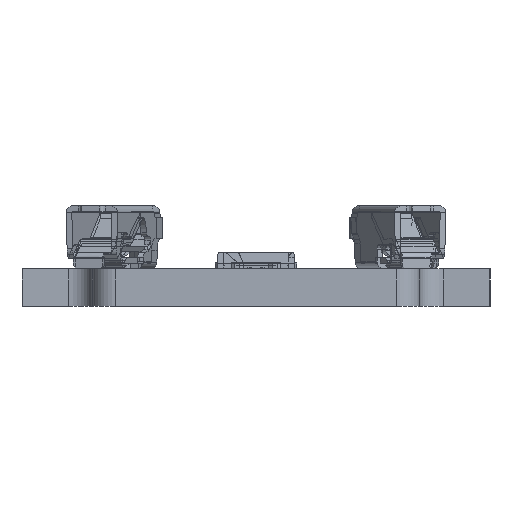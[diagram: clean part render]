
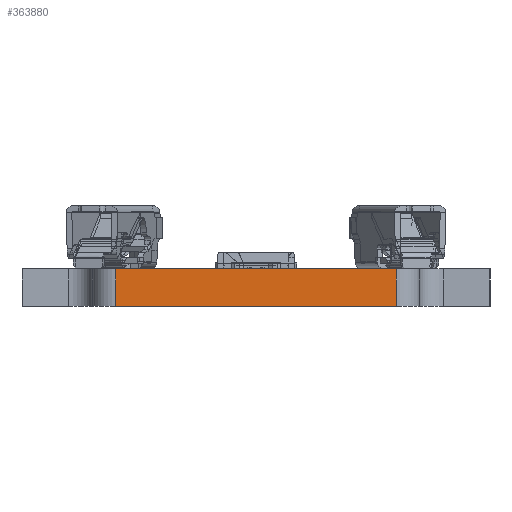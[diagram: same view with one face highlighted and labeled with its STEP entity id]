
A CAD part, left-side view. The second image highlights one B-rep face of the part: STEP entity #363880.
In plain terms, the highlighted planar face has unit normal (-1, 0, 0).
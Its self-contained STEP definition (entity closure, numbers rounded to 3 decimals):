
#356350=CARTESIAN_POINT('',(-137.531,56.,0.));
#356360=VERTEX_POINT('',#356350);
#357860=CARTESIAN_POINT('',(-137.531,44.,0.));
#357870=VERTEX_POINT('',#357860);
#357900=CARTESIAN_POINT('',(-137.531,44.,0.));
#357910=DIRECTION('',(0.,1.,0.));
#357920=VECTOR('',#357910,0.039);
#357930=LINE('',#357900,#357920);
#357940=EDGE_CURVE('',#357870,#356360,#357930,.T.);
#360000=CARTESIAN_POINT('',(-137.531,44.,-1.6));
#360010=DIRECTION('',(0.,1.,0.));
#360020=VECTOR('',#360010,0.039);
#360030=LINE('',#360000,#360020);
#360040=CARTESIAN_POINT('',(-137.531,44.,-1.6));
#360050=VERTEX_POINT('',#360040);
#360060=CARTESIAN_POINT('',(-137.531,56.,-1.6));
#360070=VERTEX_POINT('',#360060);
#360080=EDGE_CURVE('',#360050,#360070,#360030,.T.);
#363670=CARTESIAN_POINT('',(-137.531,44.,0.));
#363680=DIRECTION('',(1.,0.,0.));
#363690=DIRECTION('',(0.,-1.,0.));
#363700=AXIS2_PLACEMENT_3D('',#363670,#363680,#363690);
#363710=PLANE('',#363700);
#363720=ORIENTED_EDGE('',*,*,#357940,.T.);
#363730=CARTESIAN_POINT('',(-137.531,44.,0.));
#363740=DIRECTION('',(0.,0.,-1.));
#363750=VECTOR('',#363740,1.);
#363760=LINE('',#363730,#363750);
#363770=EDGE_CURVE('',#357870,#360050,#363760,.T.);
#363780=ORIENTED_EDGE('',*,*,#363770,.F.);
#363790=ORIENTED_EDGE('',*,*,#360080,.F.);
#363800=CARTESIAN_POINT('',(-137.531,56.,0.));
#363810=DIRECTION('',(0.,0.,-1.));
#363820=VECTOR('',#363810,1.);
#363830=LINE('',#363800,#363820);
#363840=EDGE_CURVE('',#356360,#360070,#363830,.T.);
#363850=ORIENTED_EDGE('',*,*,#363840,.T.);
#363860=EDGE_LOOP('',(#363850,#363790,#363780,#363720));
#363870=FACE_OUTER_BOUND('',#363860,.T.);
#363880=ADVANCED_FACE('',(#363870),#363710,.F.);
